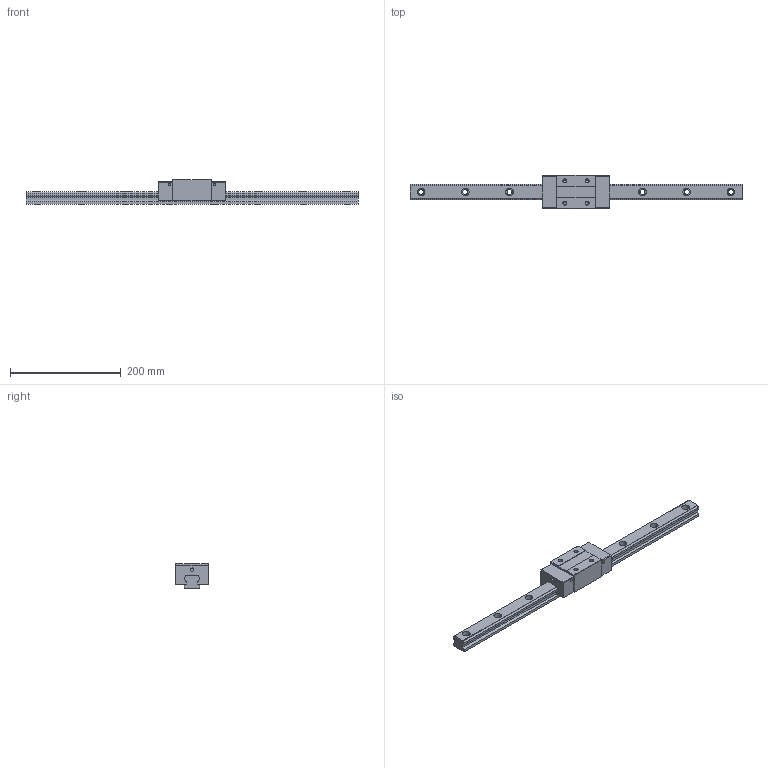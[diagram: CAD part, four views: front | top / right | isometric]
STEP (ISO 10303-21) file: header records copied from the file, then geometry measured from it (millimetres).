
FILE_DESCRIPTION (( 'STEP AP203' ), '1' );
FILE_NAME ('TRH30VN-DZ.STEP', '2024-07-10T08:16:48', ( '' ), ( '' ), 'SwSTEP 2.0', 'SolidWorks 2022', '' );
FILE_SCHEMA (( 'CONFIG_CONTROL_DESIGN' ));
Length unit declared in the file: millimetre
Products named in the file (1): TRH30VN-DZ
Bounding box: 600 x 60 x 45 mm (x, y, z)
Volume: 534306.5 mm3; surface area: 103219.6 mm2
Topology: 2 solids, 2 shells, 186 faces, 488 edges, 316 vertices
Faces by surface type: cylinder 88, plane 82, cone 16
Entity records: 5819 total; most frequent: DIRECTION 1038, CARTESIAN_POINT 983, ORIENTED_EDGE 960, EDGE_CURVE 480, AXIS2_PLACEMENT_3D 371, VERTEX_POINT 316, VECTOR 296, LINE 296
